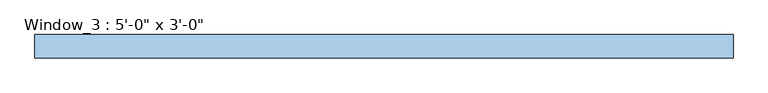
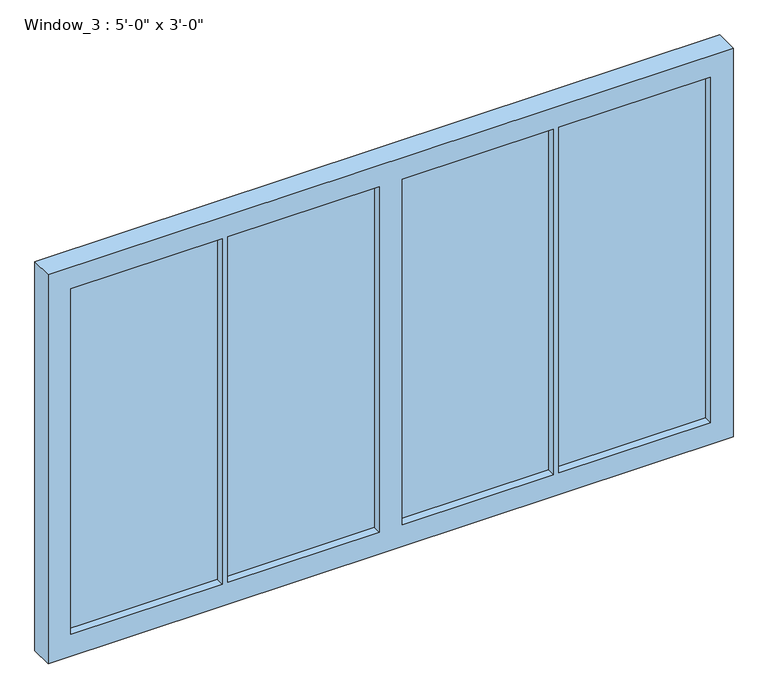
"""IFC4 building model written with IfcOpenShell, lengths in millimetres: window geometry."""

from ifc_helpers import new_model, si_unit, frame, origin, place, context, project, spatial, polyline, outline, extrude, source, transform, mapped, element, save


def window_8184cf6b(model_context):
    return source(origin(), model_context, "Body", "SweptSolid", [
        extrude(outline(polyline([(723.9, 3.175), (387.35, 3.175), (387.35, 15.875), (723.9, 15.875), (723.9, 3.175)])), frame((0.0, 0.0, 889.0), z_axis=(0.0, 0.0, 1.0), x_axis=(1.0, 0.0, 0.0)), (0.0, 0.0, 1.0), 812.8),
        extrude(outline(polyline([(-361.95, 3.175), (-698.5, 3.175), (-698.5, 15.875), (-361.95, 15.875), (-361.95, 3.175)])), frame((0.0, 0.0, 889.0), z_axis=(0.0, 0.0, 1.0), x_axis=(1.0, 0.0, 0.0)), (0.0, 0.0, 1.0), 812.8),
        extrude(outline(polyline([(-12.7, 3.175), (-349.25, 3.175), (-349.25, 15.875), (-12.7, 15.875), (-12.7, 3.175)])), frame((0.0, 0.0, 889.0), z_axis=(0.0, 0.0, 1.0), x_axis=(1.0, 0.0, 0.0)), (0.0, 0.0, 1.0), 812.8),
        extrude(outline(polyline([(374.65, 3.175), (38.1, 3.175), (38.1, 15.875), (374.65, 15.875), (374.65, 3.175)])), frame((0.0, 0.0, 889.0), z_axis=(0.0, 0.0, 1.0), x_axis=(1.0, 0.0, 0.0)), (0.0, 0.0, 1.0), 812.8),
        extrude(outline(polyline([(1752.6, -749.3), (838.2, -749.3), (838.2, 774.7), (1752.6, 774.7), (1752.6, -749.3)]), holes=[polyline([(889.0, -698.5), (1701.8, -698.5), (1701.8, -361.95), (889.0, -361.95), (889.0, -698.5)]), polyline([(889.0, -12.7), (889.0, -349.25), (1701.8, -349.25), (1701.8, -12.7), (889.0, -12.7)]), polyline([(1701.8, 387.35), (1701.8, 723.9), (889.0, 723.9), (889.0, 387.35), (1701.8, 387.35)]), polyline([(1701.8, 38.1), (1701.8, 374.65), (889.0, 374.65), (889.0, 38.1), (1701.8, 38.1)])]), frame((0.0, -15.875, 0.0), z_axis=(0.0, 1.0, 0.0), x_axis=(0.0, 0.0, 1.0)), (0.0, 0.0, 1.0), 50.8),
    ])


if __name__ == "__main__":
    model = new_model("IFC4")
    model_context = context("Model", 3, world=origin())
    ifc_project = project(units=[si_unit("LENGTHUNIT", "METRE", prefix="MILLI")], contexts=[model_context])
    site = spatial("IfcSite", under=ifc_project)
    building = spatial("IfcBuilding", under=site)
    placement = place(None, origin())
    window_shape = window_8184cf6b(model_context)
    element("IfcWindow", 1, ObjectType="Window_3 : 5'-0\" x 3'-0\"", at=placement, inside=building, context=model_context, shape_type="MappedRepresentation", body=[
        mapped(window_shape, transform((0.0, 0.0, 0.0), x_axis=(1.0, 0.0, 0.0), y_axis=(0.0, 1.0, 0.0), z_axis=(0.0, 0.0, 1.0))),
    ])
    save(model, "model.ifc")
